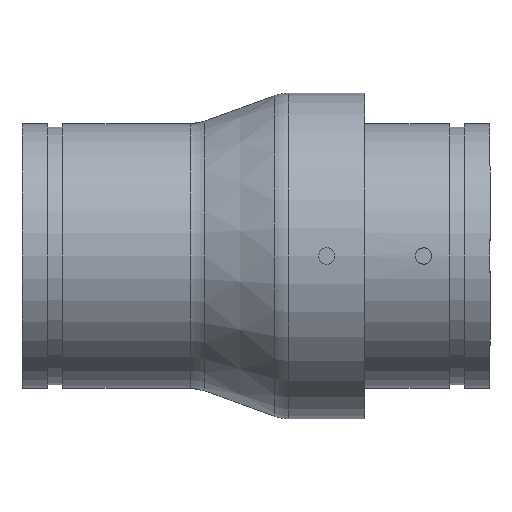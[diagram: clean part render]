
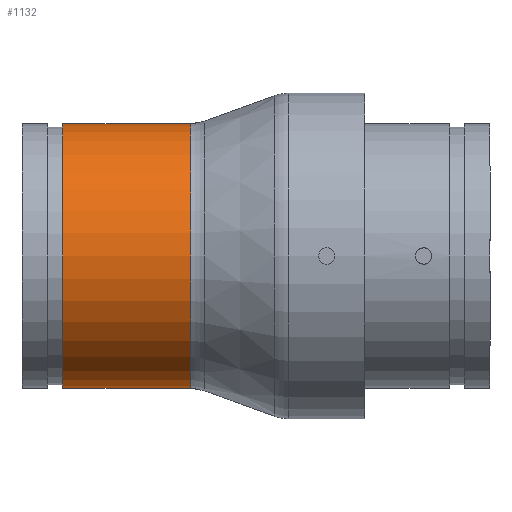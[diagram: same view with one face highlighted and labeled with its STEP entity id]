
A CAD part, front view. The second image highlights one B-rep face of the part: STEP entity #1132.
In plain terms, the highlighted cylindrical face has radius 82.55 mm (diameter 165.1 mm), a full revolution.
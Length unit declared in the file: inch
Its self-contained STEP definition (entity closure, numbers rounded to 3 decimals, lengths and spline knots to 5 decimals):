
#27=B_SPLINE_CURVE_WITH_KNOTS('',3,(#1910,#1911,#1912,#1913,#1914,#1915,
#1916,#1917,#1918,#1919,#1920,#1921,#1922,#1923,#1924,#1925,#1926,#1927,
#1928,#1929,#1930,#1931,#1932,#1933,#1934,#1935),.UNSPECIFIED.,.F.,.F.,
(4,2,2,2,2,2,2,2,2,2,2,2,4),(-12.9869,-12.66712,-11.6886,
-10.71678,-9.74497,-8.77315,-7.80134,
-6.82952,-5.85771,-4.8859,-3.91408,
-2.93556,-2.61578),.UNSPECIFIED.);
#110=FACE_OUTER_BOUND('',#177,.T.);
#177=EDGE_LOOP('',(#861,#862,#863,#864,#865,#866,#867,#868,#869,#870,#871));
#228=ELLIPSE('',#1269,12.12063,3.25);
#229=ELLIPSE('',#1272,12.12063,3.25);
#286=LINE('',#1967,#358);
#358=VECTOR('',#1558,3.25);
#395=CIRCLE('',#1258,3.25);
#396=CIRCLE('',#1259,3.25);
#404=CIRCLE('',#1270,3.25);
#405=CIRCLE('',#1271,3.25);
#406=CIRCLE('',#1273,3.25);
#407=CIRCLE('',#1274,3.25);
#493=VERTEX_POINT('',#1907);
#494=VERTEX_POINT('',#1909);
#495=VERTEX_POINT('',#1939);
#496=VERTEX_POINT('',#1940);
#497=VERTEX_POINT('',#1942);
#504=VERTEX_POINT('',#1960);
#505=VERTEX_POINT('',#1963);
#506=VERTEX_POINT('',#1966);
#507=VERTEX_POINT('',#1968);
#626=EDGE_CURVE('',#494,#493,#27,.T.);
#628=EDGE_CURVE('',#495,#496,#395,.T.);
#629=EDGE_CURVE('',#496,#497,#396,.T.);
#638=EDGE_CURVE('',#504,#495,#228,.T.);
#639=EDGE_CURVE('',#504,#494,#404,.T.);
#640=EDGE_CURVE('',#493,#505,#405,.T.);
#641=EDGE_CURVE('',#497,#505,#229,.T.);
#642=EDGE_CURVE('',#496,#506,#286,.T.);
#643=EDGE_CURVE('',#506,#507,#406,.T.);
#644=EDGE_CURVE('',#507,#506,#407,.T.);
#861=ORIENTED_EDGE('',*,*,#628,.F.);
#862=ORIENTED_EDGE('',*,*,#638,.F.);
#863=ORIENTED_EDGE('',*,*,#639,.T.);
#864=ORIENTED_EDGE('',*,*,#626,.T.);
#865=ORIENTED_EDGE('',*,*,#640,.T.);
#866=ORIENTED_EDGE('',*,*,#641,.F.);
#867=ORIENTED_EDGE('',*,*,#629,.F.);
#868=ORIENTED_EDGE('',*,*,#642,.T.);
#869=ORIENTED_EDGE('',*,*,#643,.T.);
#870=ORIENTED_EDGE('',*,*,#644,.T.);
#871=ORIENTED_EDGE('',*,*,#642,.F.);
#1019=CYLINDRICAL_SURFACE('',#1268,3.25);
#1132=ADVANCED_FACE('',(#110),#1019,.T.);
#1258=AXIS2_PLACEMENT_3D('',#1941,#1527,#1528);
#1259=AXIS2_PLACEMENT_3D('',#1943,#1529,#1530);
#1268=AXIS2_PLACEMENT_3D('',#1959,#1548,#1549);
#1269=AXIS2_PLACEMENT_3D('',#1961,#1550,#1551);
#1270=AXIS2_PLACEMENT_3D('',#1962,#1552,#1553);
#1271=AXIS2_PLACEMENT_3D('',#1964,#1554,#1555);
#1272=AXIS2_PLACEMENT_3D('',#1965,#1556,#1557);
#1273=AXIS2_PLACEMENT_3D('',#1969,#1559,#1560);
#1274=AXIS2_PLACEMENT_3D('',#1970,#1561,#1562);
#1527=DIRECTION('center_axis',(1.,0.,0.));
#1528=DIRECTION('ref_axis',(0.,-1.,0.));
#1529=DIRECTION('center_axis',(1.,0.,0.));
#1530=DIRECTION('ref_axis',(0.,-1.,0.));
#1548=DIRECTION('center_axis',(1.,0.,0.));
#1549=DIRECTION('ref_axis',(0.,1.,0.));
#1550=DIRECTION('center_axis',(0.268,0.,
-0.963));
#1551=DIRECTION('ref_axis',(0.963,0.,0.268));
#1552=DIRECTION('center_axis',(-1.,0.,0.));
#1553=DIRECTION('ref_axis',(0.,1.,0.));
#1554=DIRECTION('center_axis',(-1.,0.,0.));
#1555=DIRECTION('ref_axis',(0.,1.,0.));
#1556=DIRECTION('center_axis',(0.268,0.,
0.963));
#1557=DIRECTION('ref_axis',(0.963,0.,-0.268));
#1558=DIRECTION('',(-1.,0.,0.));
#1559=DIRECTION('center_axis',(1.,0.,0.));
#1560=DIRECTION('ref_axis',(0.,0.,-1.));
#1561=DIRECTION('center_axis',(1.,0.,0.));
#1562=DIRECTION('ref_axis',(0.,0.,-1.));
#1907=CARTESIAN_POINT('',(2.88,2.76872,-1.70196));
#1909=CARTESIAN_POINT('',(2.88,2.76872,1.70196));
#1910=CARTESIAN_POINT('Ctrl Pts',(2.88,2.76872,1.70196));
#1911=CARTESIAN_POINT('Ctrl Pts',(2.84357,2.78188,1.68056));
#1912=CARTESIAN_POINT('Ctrl Pts',(2.80799,2.79536,1.65808));
#1913=CARTESIAN_POINT('Ctrl Pts',(2.66735,2.85076,1.56286));
#1914=CARTESIAN_POINT('Ctrl Pts',(2.57024,2.89406,1.4819));
#1915=CARTESIAN_POINT('Ctrl Pts',(2.39869,2.97564,1.31035));
#1916=CARTESIAN_POINT('Ctrl Pts',(2.31782,3.01704,1.21354));
#1917=CARTESIAN_POINT('Ctrl Pts',(2.17409,3.09391,1.00147));
#1918=CARTESIAN_POINT('Ctrl Pts',(2.11122,3.12933,0.8862));
#1919=CARTESIAN_POINT('Ctrl Pts',(2.00933,3.18802,0.64385));
#1920=CARTESIAN_POINT('Ctrl Pts',(1.97023,3.21132,0.51652));
#1921=CARTESIAN_POINT('Ctrl Pts',(1.91856,3.24232,0.25837));
#1922=CARTESIAN_POINT('Ctrl Pts',(1.906,3.25,0.12753));
#1923=CARTESIAN_POINT('Ctrl Pts',(1.906,3.25,-0.12753));
#1924=CARTESIAN_POINT('Ctrl Pts',(1.91856,3.24232,-0.25837));
#1925=CARTESIAN_POINT('Ctrl Pts',(1.97023,3.21132,-0.51652));
#1926=CARTESIAN_POINT('Ctrl Pts',(2.00933,3.18802,-0.64385));
#1927=CARTESIAN_POINT('Ctrl Pts',(2.11122,3.12933,-0.8862));
#1928=CARTESIAN_POINT('Ctrl Pts',(2.17409,3.09391,-1.00147));
#1929=CARTESIAN_POINT('Ctrl Pts',(2.31782,3.01704,-1.21354));
#1930=CARTESIAN_POINT('Ctrl Pts',(2.39869,2.97564,-1.31035));
#1931=CARTESIAN_POINT('Ctrl Pts',(2.57024,2.89406,-1.4819));
#1932=CARTESIAN_POINT('Ctrl Pts',(2.66735,2.85076,-1.56286));
#1933=CARTESIAN_POINT('Ctrl Pts',(2.80799,2.79536,-1.65808));
#1934=CARTESIAN_POINT('Ctrl Pts',(2.84357,2.78188,-1.68056));
#1935=CARTESIAN_POINT('Ctrl Pts',(2.88,2.76872,-1.70196));
#1939=CARTESIAN_POINT('',(4.14306,0.,3.25));
#1940=CARTESIAN_POINT('',(4.14306,-3.25,0.));
#1941=CARTESIAN_POINT('Origin',(4.14306,0.,0.));
#1942=CARTESIAN_POINT('',(4.14306,0.,-3.25));
#1943=CARTESIAN_POINT('Origin',(4.14306,0.,0.));
#1959=CARTESIAN_POINT('Origin',(5.75,0.,0.));
#1960=CARTESIAN_POINT('',(2.88,1.4702,2.89845));
#1961=CARTESIAN_POINT('Origin',(-7.53371,0.,
0.));
#1962=CARTESIAN_POINT('Origin',(2.88,0.,0.));
#1963=CARTESIAN_POINT('',(2.88,1.4702,-2.89845));
#1964=CARTESIAN_POINT('Origin',(2.88,0.,0.));
#1965=CARTESIAN_POINT('Origin',(-7.53371,0.,
0.));
#1966=CARTESIAN_POINT('',(1.,-3.25,0.));
#1967=CARTESIAN_POINT('',(5.75,-3.25,0.));
#1968=CARTESIAN_POINT('',(1.,3.25,0.));
#1969=CARTESIAN_POINT('Origin',(1.,0.,0.));
#1970=CARTESIAN_POINT('Origin',(1.,0.,0.));
